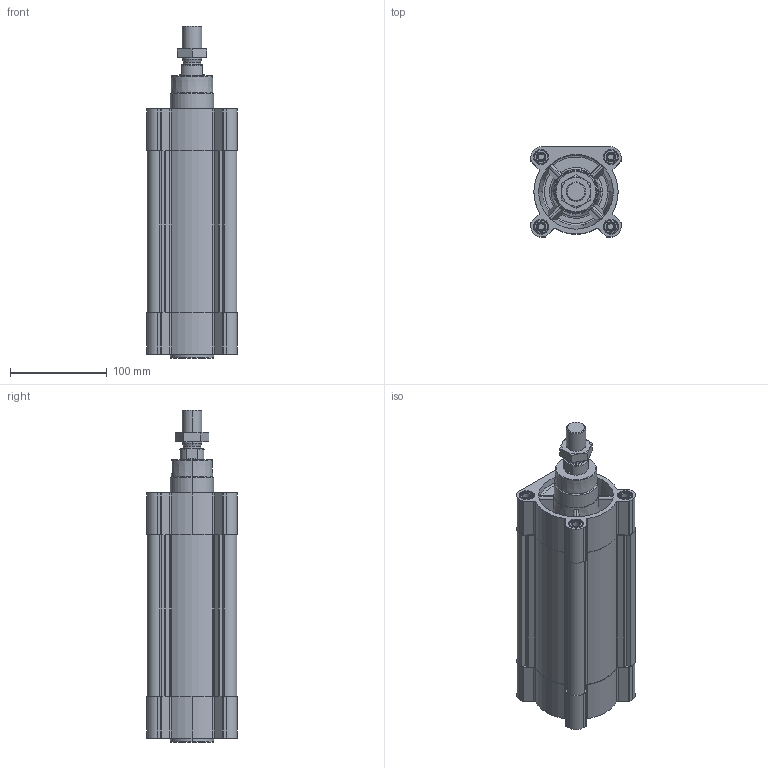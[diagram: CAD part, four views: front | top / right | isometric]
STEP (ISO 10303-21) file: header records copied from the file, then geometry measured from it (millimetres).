
FILE_DESCRIPTION (( 'STEP AP214' ), '1' );
FILE_NAME ('CPME80-125.STEP', '2025-03-19T16:57:44', ( '' ), ( '' ), 'SwSTEP 2.0', 'SolidWorks 2019', '' );
FILE_SCHEMA (( 'AUTOMOTIVE_DESIGN' ));
Length unit declared in the file: millimetre
Products named in the file (1): CPME80-125
Bounding box: 93 x 93 x 342.6 mm (x, y, z)
Volume: 1229409.9 mm3; surface area: 273366.7 mm2
Topology: 3 solids, 3 shells, 533 faces, 1359 edges, 870 vertices
Faces by surface type: plane 207, cylinder 200, cone 98, torus 28
Entity records: 24525 total; most frequent: CARTESIAN_POINT 5639, DIRECTION 2751, ORIENTED_EDGE 2718, EDGE_CURVE 1359, AXIS2_PLACEMENT_3D 1049, VERTEX_POINT 870, LINE 653, VECTOR 653
